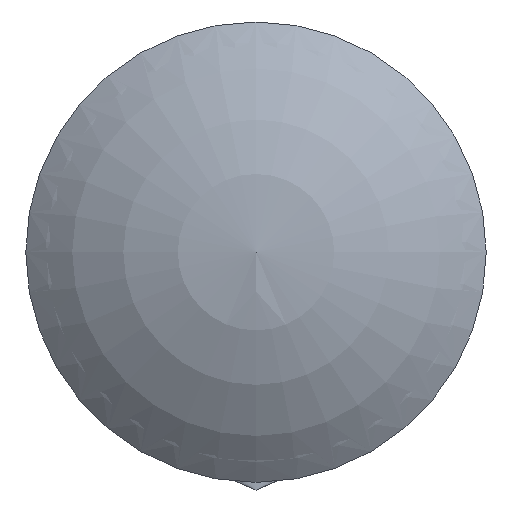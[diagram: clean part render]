
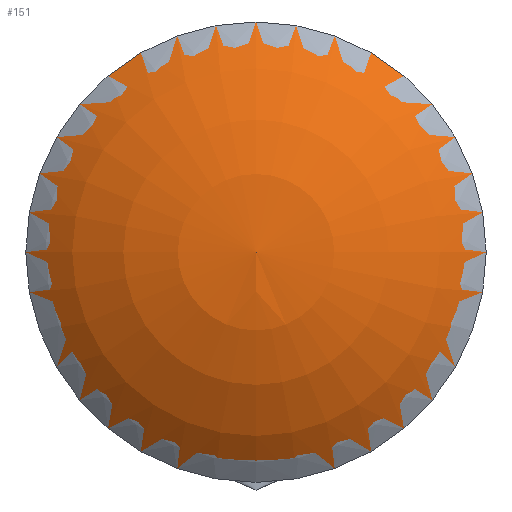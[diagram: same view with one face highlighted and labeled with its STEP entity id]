
A CAD part, front view. The second image highlights one B-rep face of the part: STEP entity #151.
In plain terms, the highlighted toroidal (fillet/blend) face has major radius 20 mm and minor radius 890.702 mm.
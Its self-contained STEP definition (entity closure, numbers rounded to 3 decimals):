
#8 = DIRECTION ( 'NONE',  ( 0., 0., -1. ) ) ;
#10 = AXIS2_PLACEMENT_3D ( 'NONE', #188, #43, #27 ) ;
#24 = ORIENTED_EDGE ( 'NONE', *, *, #104, .F. ) ;
#27 = DIRECTION ( 'NONE',  ( 0., 0., -1. ) ) ;
#42 = FACE_OUTER_BOUND ( 'NONE', #56, .T. ) ;
#43 = DIRECTION ( 'NONE',  ( 0., -1., 0. ) ) ;
#56 = EDGE_LOOP ( 'NONE', ( #24 ) ) ;
#81 = TOROIDAL_SURFACE ( 'NONE', #10, 20., 890.702 ) ;
#89 = AXIS2_PLACEMENT_3D ( 'NONE', #131, #129, #8 ) ;
#90 = CIRCLE ( 'NONE', #89, 592.531 ) ;
#104 = EDGE_CURVE ( 'NONE', #175, #175, #90, .T. ) ;
#129 = DIRECTION ( 'NONE',  ( 0., -1., 0. ) ) ;
#131 = CARTESIAN_POINT ( 'NONE',  ( 0., -287.318, 0. ) ) ;
#151 = ADVANCED_FACE ( 'NONE', ( #42 ), #81, .T. ) ;
#175 = VERTEX_POINT ( 'NONE', #193 ) ;
#188 = CARTESIAN_POINT ( 'NONE',  ( 0., 395., 0. ) ) ;
#193 = CARTESIAN_POINT ( 'NONE',  ( 0., -287.318, -592.531 ) ) ;
